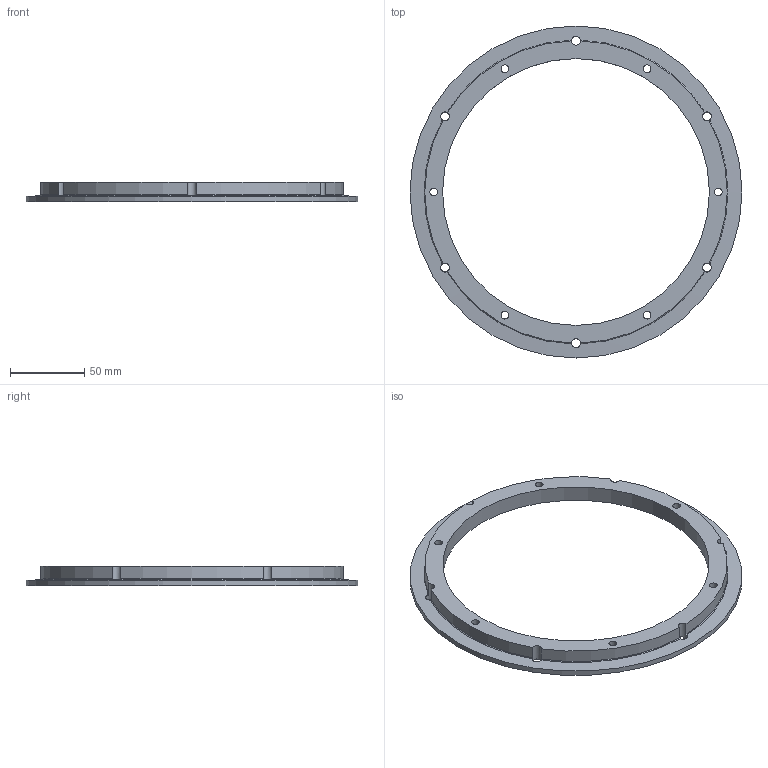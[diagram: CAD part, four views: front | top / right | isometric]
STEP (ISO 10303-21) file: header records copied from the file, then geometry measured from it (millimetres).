
FILE_DESCRIPTION( ( 'Unknown' ), '1' );
FILE_NAME( 'F:/navkite transat/construction/2016/3D ET ASSEMBLAGES/self tailing/WI 12.stp', 'Unknown', ( 'GMA' ), ( 'Unknown' ), 'XStep 1.0', 'Unknown', ' ' );
FILE_SCHEMA( ( 'automotive_design' ) );
Length unit declared in the file: millimetre
Products named in the file (1): 1
Bounding box: 224 x 224 x 13 mm (x, y, z)
Volume: 104698.4 mm3; surface area: 44298.6 mm2
Topology: 1 solids, 1 shells, 42 faces, 152 edges, 101 vertices
Faces by surface type: cylinder 26, cone 13, plane 3
Full cylindrical faces by diameter (mm): 5.2 x6, 6 x6, 180 x1, 224 x1
Entity records: 2068 total; most frequent: CARTESIAN_POINT 513, DIRECTION 250, ORIENTED_EDGE 248, EDGE_CURVE 124, AXIS2_PLACEMENT_3D 113, VERTEX_POINT 88, EDGE_LOOP 72, CIRCLE 70
